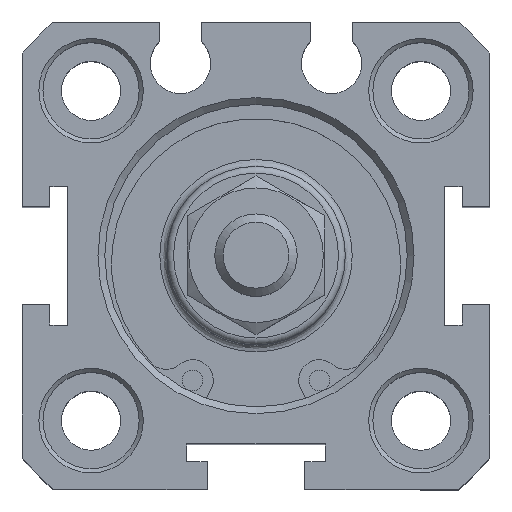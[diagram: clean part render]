
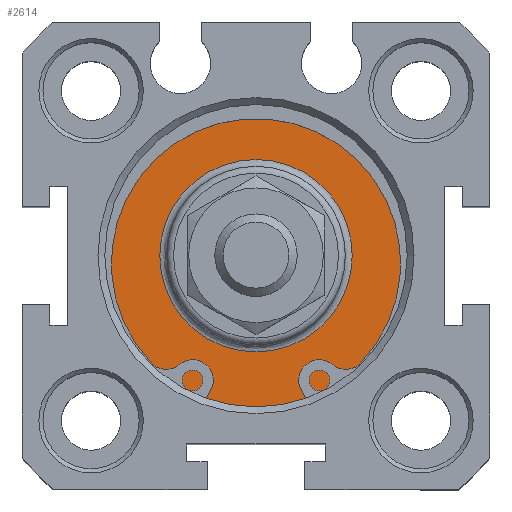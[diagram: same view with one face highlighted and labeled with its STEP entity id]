
A CAD part, top view. The second image highlights one B-rep face of the part: STEP entity #2614.
In plain terms, the highlighted planar face has unit normal (0, 0, 1).
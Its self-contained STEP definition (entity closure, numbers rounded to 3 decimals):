
#2552=CARTESIAN_POINT('',(0.957,6.522,26.8));
#2553=VERTEX_POINT('',#2552);
#2554=CARTESIAN_POINT('',(0.957,-0.478,26.8));
#2555=DIRECTION('',(0.0,0.0,1.0));
#2556=DIRECTION('',(0.0,-1.0,0.0));
#2557=AXIS2_PLACEMENT_3D('',#2554,#2555,#2556);
#2558=CIRCLE('',#2557,7.);
#2559=EDGE_CURVE('',#2553,#2553,#2558,.T.);
#2595=CARTESIAN_POINT('',(0.957,8.272,26.8));
#2596=DIRECTION('',(0.0,0.0,1.0));
#2597=DIRECTION('',(1.0,0.0,0.0));
#2598=AXIS2_PLACEMENT_3D('',#2595,#2596,#2597);
#2599=PLANE('',#2598);
#2600=CARTESIAN_POINT('',(0.957,10.522,26.8));
#2601=VERTEX_POINT('',#2600);
#2602=CARTESIAN_POINT('',(0.957,-0.478,26.8));
#2603=DIRECTION('',(0.0,0.0,1.0));
#2604=DIRECTION('',(0.0,1.0,0.0));
#2605=AXIS2_PLACEMENT_3D('',#2602,#2603,#2604);
#2606=CIRCLE('',#2605,11.);
#2607=EDGE_CURVE('',#2601,#2601,#2606,.T.);
#2608=ORIENTED_EDGE('',*,*,#2607,.T.);
#2609=EDGE_LOOP('',(#2608));
#2610=FACE_OUTER_BOUND('',#2609,.T.);
#2611=ORIENTED_EDGE('',*,*,#2559,.F.);
#2612=EDGE_LOOP('',(#2611));
#2613=FACE_BOUND('',#2612,.T.);
#2614=ADVANCED_FACE('',(#2610,#2613),#2599,.T.);
